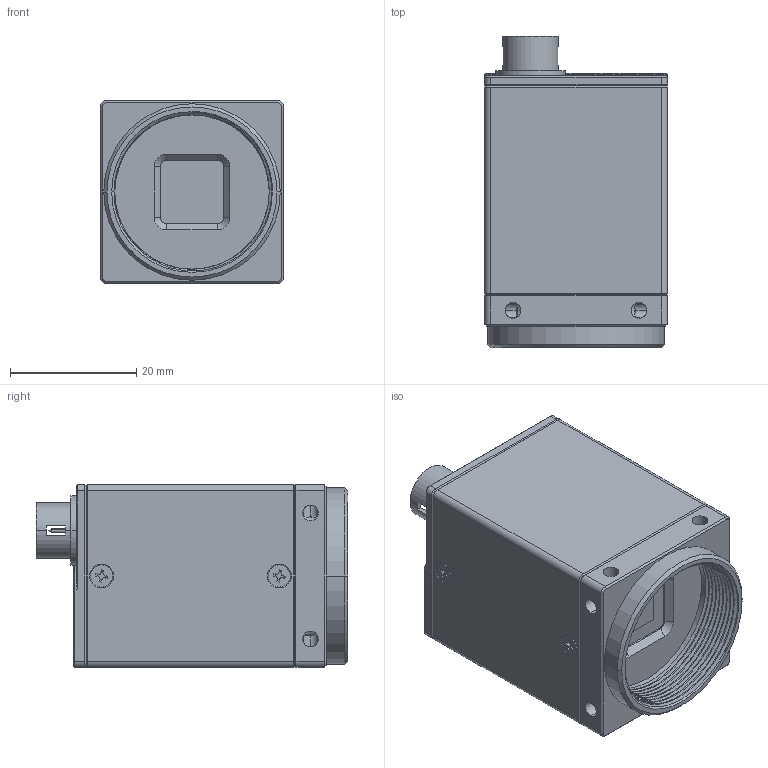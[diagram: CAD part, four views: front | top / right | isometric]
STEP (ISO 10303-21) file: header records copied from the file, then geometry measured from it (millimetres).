
FILE_DESCRIPTION (( 'STEP AP203' ), '1' );
FILE_NAME ('GEV-CS-V2.STEP', '2023-04-15T02:13:36', ( '' ), ( '' ), 'SwSTEP 2.0', 'SolidWorks 2022', '' );
FILE_SCHEMA (( 'CONFIG_CONTROL_DESIGN' ));
Length unit declared in the file: millimetre
Products named in the file (1): GEV-CS-V2
Bounding box: 29 x 49.4 x 29 mm (x, y, z)
Volume: 16566.2 mm3; surface area: 25324.8 mm2
Topology: 31 solids, 31 shells, 1403 faces, 3592 edges, 2248 vertices
Faces by surface type: plane 547, cylinder 512, cone 301, bspline 41, torus 2
Entity records: 47491 total; most frequent: CARTESIAN_POINT 14519, ORIENTED_EDGE 7076, DIRECTION 6516, EDGE_CURVE 3538, AXIS2_PLACEMENT_3D 2366, VERTEX_POINT 2248, LINE 1784, VECTOR 1784
